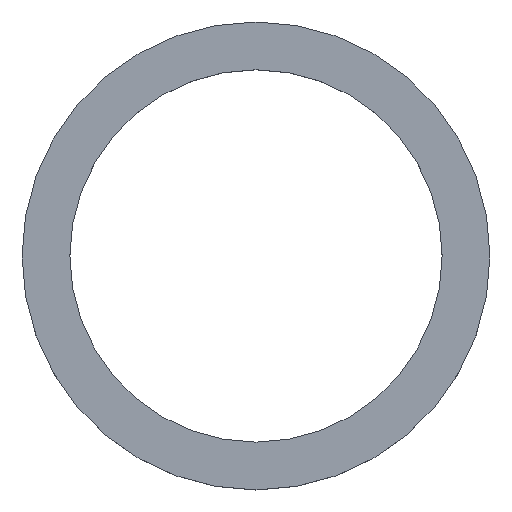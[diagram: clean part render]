
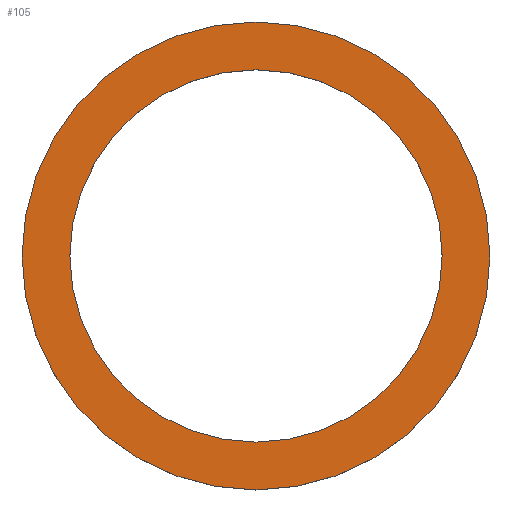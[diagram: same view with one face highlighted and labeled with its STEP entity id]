
A CAD part, top view. The second image highlights one B-rep face of the part: STEP entity #105.
In plain terms, the highlighted planar face has unit normal (0, 0, 1).
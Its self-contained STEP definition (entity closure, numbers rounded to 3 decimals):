
#21 = EDGE_CURVE('',#22,#22,#24,.T.);
#22 = VERTEX_POINT('',#23);
#23 = CARTESIAN_POINT('',(-312.,-265.913,30.));
#24 = SURFACE_CURVE('',#25,(#30,#42),.PCURVE_S1.);
#25 = CIRCLE('',#26,23.);
#26 = AXIS2_PLACEMENT_3D('',#27,#28,#29);
#27 = CARTESIAN_POINT('',(-335.,-265.913,30.));
#28 = DIRECTION('',(0.,0.,1.));
#29 = DIRECTION('',(1.,0.,-0.));
#30 = PCURVE('',#31,#36);
#31 = CYLINDRICAL_SURFACE('',#32,23.);
#32 = AXIS2_PLACEMENT_3D('',#33,#34,#35);
#33 = CARTESIAN_POINT('',(-335.,-265.913,26.));
#34 = DIRECTION('',(0.,0.,1.));
#35 = DIRECTION('',(1.,0.,-0.));
#36 = DEFINITIONAL_REPRESENTATION('',(#37),#41);
#37 = LINE('',#38,#39);
#38 = CARTESIAN_POINT('',(0.,4.));
#39 = VECTOR('',#40,1.);
#40 = DIRECTION('',(1.,0.));
#41 = ( GEOMETRIC_REPRESENTATION_CONTEXT(2) 
PARAMETRIC_REPRESENTATION_CONTEXT() REPRESENTATION_CONTEXT('2D SPACE',''
  ) );
#42 = PCURVE('',#43,#48);
#43 = PLANE('',#44);
#44 = AXIS2_PLACEMENT_3D('',#45,#46,#47);
#45 = CARTESIAN_POINT('',(-335.,-265.913,30.));
#46 = DIRECTION('',(0.,0.,1.));
#47 = DIRECTION('',(1.,0.,-0.));
#48 = DEFINITIONAL_REPRESENTATION('',(#49),#53);
#49 = CIRCLE('',#50,23.);
#50 = AXIS2_PLACEMENT_2D('',#51,#52);
#51 = CARTESIAN_POINT('',(0.,0.));
#52 = DIRECTION('',(1.,0.));
#53 = ( GEOMETRIC_REPRESENTATION_CONTEXT(2) 
PARAMETRIC_REPRESENTATION_CONTEXT() REPRESENTATION_CONTEXT('2D SPACE',''
  ) );
#105 = ADVANCED_FACE('',(#106,#109),#43,.T.);
#106 = FACE_BOUND('',#107,.T.);
#107 = EDGE_LOOP('',(#108));
#108 = ORIENTED_EDGE('',*,*,#21,.T.);
#109 = FACE_BOUND('',#110,.T.);
#110 = EDGE_LOOP('',(#111));
#111 = ORIENTED_EDGE('',*,*,#112,.F.);
#112 = EDGE_CURVE('',#113,#113,#115,.T.);
#113 = VERTEX_POINT('',#114);
#114 = CARTESIAN_POINT('',(-316.7,-265.913,30.));
#115 = SURFACE_CURVE('',#116,(#121,#128),.PCURVE_S1.);
#116 = CIRCLE('',#117,18.3);
#117 = AXIS2_PLACEMENT_3D('',#118,#119,#120);
#118 = CARTESIAN_POINT('',(-335.,-265.913,30.));
#119 = DIRECTION('',(0.,0.,1.));
#120 = DIRECTION('',(1.,0.,-0.));
#121 = PCURVE('',#43,#122);
#122 = DEFINITIONAL_REPRESENTATION('',(#123),#127);
#123 = CIRCLE('',#124,18.3);
#124 = AXIS2_PLACEMENT_2D('',#125,#126);
#125 = CARTESIAN_POINT('',(0.,0.));
#126 = DIRECTION('',(1.,0.));
#127 = ( GEOMETRIC_REPRESENTATION_CONTEXT(2) 
PARAMETRIC_REPRESENTATION_CONTEXT() REPRESENTATION_CONTEXT('2D SPACE',''
  ) );
#128 = PCURVE('',#129,#134);
#129 = CYLINDRICAL_SURFACE('',#130,18.3);
#130 = AXIS2_PLACEMENT_3D('',#131,#132,#133);
#131 = CARTESIAN_POINT('',(-335.,-265.913,26.));
#132 = DIRECTION('',(0.,0.,1.));
#133 = DIRECTION('',(1.,0.,-0.));
#134 = DEFINITIONAL_REPRESENTATION('',(#135),#139);
#135 = LINE('',#136,#137);
#136 = CARTESIAN_POINT('',(0.,4.));
#137 = VECTOR('',#138,1.);
#138 = DIRECTION('',(1.,0.));
#139 = ( GEOMETRIC_REPRESENTATION_CONTEXT(2) 
PARAMETRIC_REPRESENTATION_CONTEXT() REPRESENTATION_CONTEXT('2D SPACE',''
  ) );
